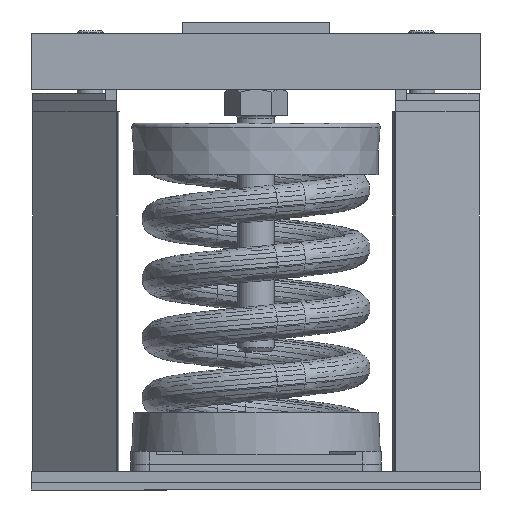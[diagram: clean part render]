
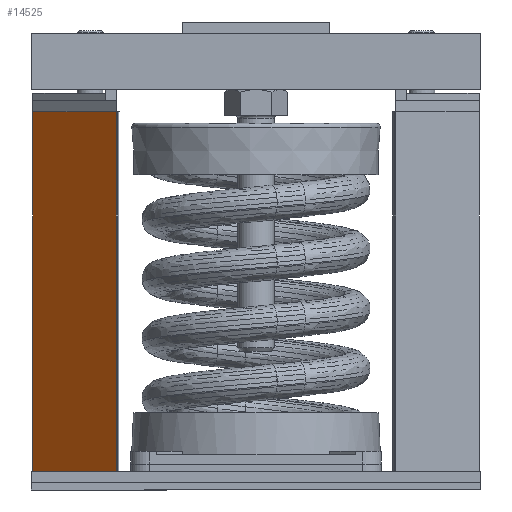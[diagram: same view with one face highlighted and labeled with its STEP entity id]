
A CAD part, front view. The second image highlights one B-rep face of the part: STEP entity #14525.
In plain terms, the highlighted planar face has unit normal (-0.707, -0.707, 0).
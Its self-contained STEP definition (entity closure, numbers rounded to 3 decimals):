
#2468=FACE_OUTER_BOUND('',#3487,.T.);
#3487=EDGE_LOOP('',(#9108,#9109,#9110,#9111));
#4643=LINE('',#18733,#5179);
#4645=LINE('',#18737,#5181);
#4646=LINE('',#18739,#5182);
#4647=LINE('',#18740,#5183);
#5179=VECTOR('',#16514,12.205);
#5181=VECTOR('',#16518,4.);
#5182=VECTOR('',#16519,12.205);
#5183=VECTOR('',#16520,4.);
#5724=VERTEX_POINT('',#18730);
#5725=VERTEX_POINT('',#18732);
#5726=VERTEX_POINT('',#18736);
#5727=VERTEX_POINT('',#18738);
#6966=EDGE_CURVE('',#5725,#5724,#4643,.T.);
#6968=EDGE_CURVE('',#5724,#5726,#4645,.T.);
#6969=EDGE_CURVE('',#5727,#5726,#4646,.T.);
#6970=EDGE_CURVE('',#5725,#5727,#4647,.T.);
#9108=ORIENTED_EDGE('',*,*,#6968,.T.);
#9109=ORIENTED_EDGE('',*,*,#6969,.F.);
#9110=ORIENTED_EDGE('',*,*,#6970,.F.);
#9111=ORIENTED_EDGE('',*,*,#6966,.T.);
#13151=PLANE('',#15591);
#14525=ADVANCED_FACE('',(#2468),#13151,.T.);
#15591=AXIS2_PLACEMENT_3D('',#18735,#16516,#16517);
#16514=DIRECTION('',(0.,0.,1.));
#16516=DIRECTION('center_axis',(-0.707,-0.707,0.));
#16517=DIRECTION('ref_axis',(0.,0.,-1.));
#16518=DIRECTION('',(-0.707,0.707,0.));
#16519=DIRECTION('',(0.,0.,1.));
#16520=DIRECTION('',(-0.707,0.707,0.));
#18730=CARTESIAN_POINT('',(-4.741,-2.828,12.83));
#18732=CARTESIAN_POINT('',(-4.741,-2.828,0.625));
#18733=CARTESIAN_POINT('',(-4.741,-2.828,0.625));
#18735=CARTESIAN_POINT('Origin',(-4.741,-2.828,0.625));
#18736=CARTESIAN_POINT('',(-7.57,0.,12.83));
#18737=CARTESIAN_POINT('',(-5.448,-2.121,12.83));
#18738=CARTESIAN_POINT('',(-7.57,0.,0.625));
#18739=CARTESIAN_POINT('',(-7.57,0.,0.625));
#18740=CARTESIAN_POINT('',(-5.448,-2.121,0.625));
